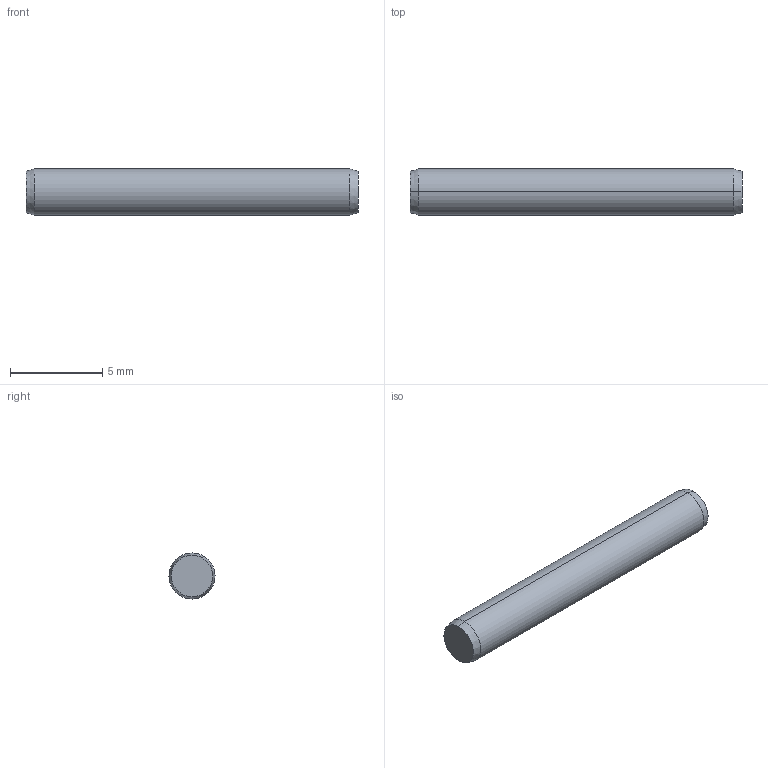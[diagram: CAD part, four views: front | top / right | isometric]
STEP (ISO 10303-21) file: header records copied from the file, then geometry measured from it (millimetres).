
FILE_DESCRIPTION (( 'STEP AP203' ), '1' );
FILE_NAME ('P1206.025-018.step', '2017-06-14T08:01:08', ( 'User' ), ( '' ), 'SwSTEP 2.0', 'SolidWorks 2009', '' );
FILE_SCHEMA (( 'CONFIG_CONTROL_DESIGN' ));
Length unit declared in the file: millimetre
Products named in the file (1): P1206.025-018
Bounding box: 18 x 2.5 x 2.5 mm (x, y, z)
Volume: 87.9 mm3; surface area: 149.3 mm2
Topology: 1 solids, 1 shells, 8 faces, 14 edges, 8 vertices
Faces by surface type: cone 4, cylinder 2, plane 2
Entity records: 271 total; most frequent: DIRECTION 40, CARTESIAN_POINT 31, ORIENTED_EDGE 28, AXIS2_PLACEMENT_3D 17, EDGE_CURVE 14, CIRCLE 8, FACE_OUTER_BOUND 8, PERSON_AND_ORGANIZATION 8
